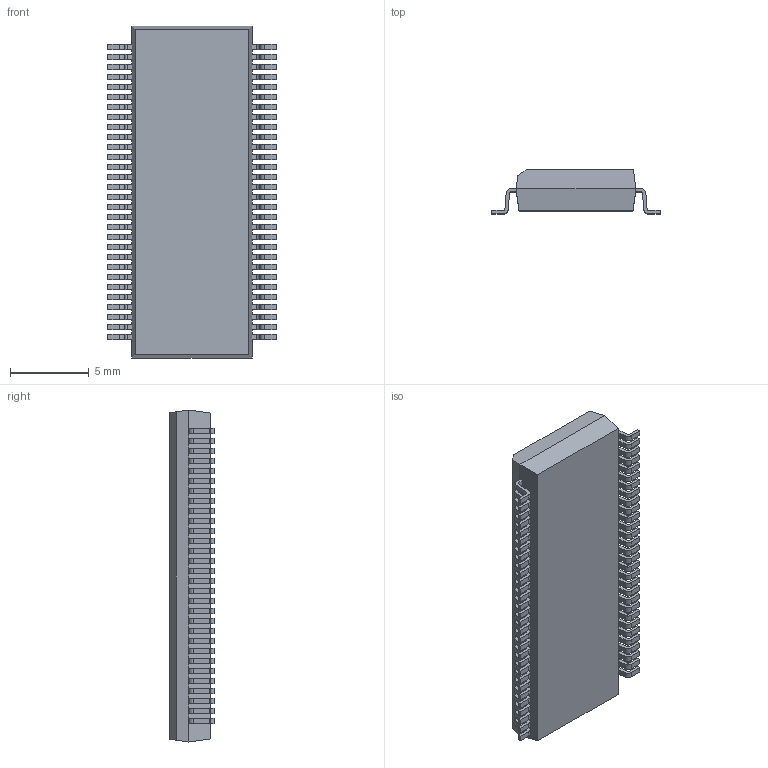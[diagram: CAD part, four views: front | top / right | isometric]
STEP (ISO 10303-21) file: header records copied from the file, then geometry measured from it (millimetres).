
FILE_DESCRIPTION (( 'STEP AP214' ), '1' );
FILE_NAME ('SOP63P1050X280-60_MO-118.AC.STEP', '2014-10-31T14:00:55', ( 'Tester2' ), ( '' ), 'SwSTEP 2.0', 'SolidWorks 2012', '' );
FILE_SCHEMA (( 'AUTOMOTIVE_DESIGN' ));
Length unit declared in the file: millimetre
Products named in the file (1): SOP63P1050X280-60_MO-118.AC
Bounding box: 10.7 x 2.8 x 21.08 mm (x, y, z)
Volume: 414 mm3; surface area: 626 mm2
Topology: 1 solids, 1 shells, 794 faces, 2369 edges, 1578 vertices
Faces by surface type: plane 552, cylinder 242
Entity records: 35232 total; most frequent: CARTESIAN_POINT 4742, ORIENTED_EDGE 4738, DIRECTION 4443, EDGE_CURVE 2369, LINE 1885, VECTOR 1885, VERTEX_POINT 1578, AXIS2_PLACEMENT_3D 1279
